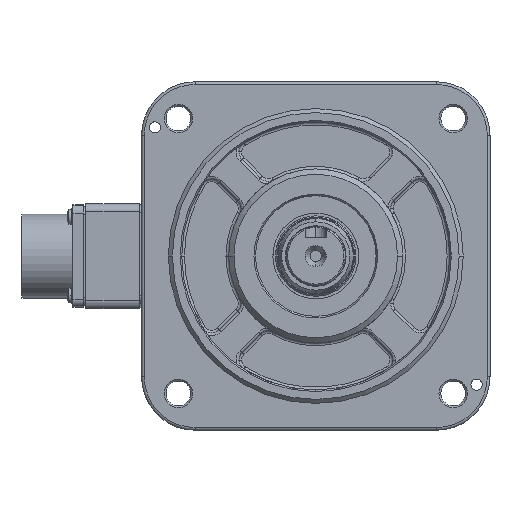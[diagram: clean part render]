
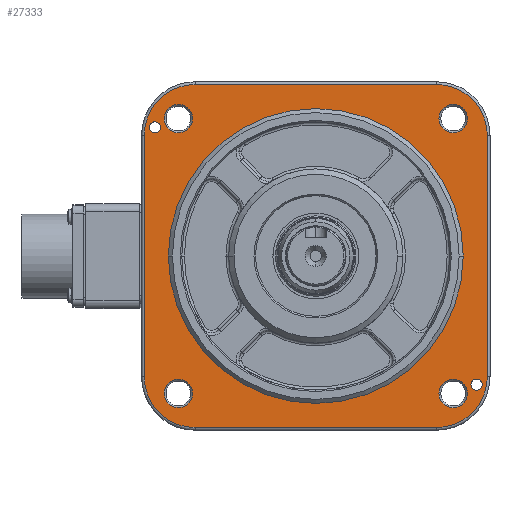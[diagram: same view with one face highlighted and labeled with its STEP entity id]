
A CAD part, left-side view. The second image highlights one B-rep face of the part: STEP entity #27333.
In plain terms, the highlighted planar face has unit normal (-1, 0, 0).
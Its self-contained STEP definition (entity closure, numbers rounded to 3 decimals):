
#22669=CARTESIAN_POINT('',(-121.05,155.539,
-10.843));
#22670=DIRECTION('',(-1.,0.,0.));
#22671=DIRECTION('',(0.,1.,0.));
#22672=AXIS2_PLACEMENT_3D('',#22669,#22670,#22671);
#22674=CARTESIAN_POINT('',(-121.058,155.539,
79.157));
#22675=DIRECTION('',(-1.,0.,0.));
#22676=DIRECTION('',(0.,0.,1.));
#22677=AXIS2_PLACEMENT_3D('',#22674,#22675,#22676);
#22679=CARTESIAN_POINT('',(-121.058,65.539,
79.157));
#22680=DIRECTION('',(-1.,0.,0.));
#22681=DIRECTION('',(0.,-1.,0.));
#22682=AXIS2_PLACEMENT_3D('',#22679,#22680,#22681);
#22684=CARTESIAN_POINT('',(-121.05,65.539,
-10.843));
#22685=DIRECTION('',(-1.,0.,0.));
#22686=DIRECTION('',(0.,0.,-1.));
#22687=AXIS2_PLACEMENT_3D('',#22684,#22685,#22686);
#22689=CARTESIAN_POINT('',(-121.058,170.539,
82.157));
#22690=DIRECTION('',(1.,0.,0.));
#22691=DIRECTION('',(0.,-1.,0.));
#22692=AXIS2_PLACEMENT_3D('',#22689,#22690,#22691);
#22694=CARTESIAN_POINT('',(-121.058,170.539,
82.157));
#22695=DIRECTION('',(1.,0.,0.));
#22696=DIRECTION('',(0.,1.,0.));
#22697=AXIS2_PLACEMENT_3D('',#22694,#22695,#22696);
#22699=CARTESIAN_POINT('',(-121.05,50.539,
-13.843));
#22700=DIRECTION('',(1.,0.,0.));
#22701=DIRECTION('',(0.,-1.,0.));
#22702=AXIS2_PLACEMENT_3D('',#22699,#22700,#22701);
#22704=CARTESIAN_POINT('',(-121.05,50.539,
-13.843));
#22705=DIRECTION('',(1.,0.,0.));
#22706=DIRECTION('',(0.,1.,0.));
#22707=AXIS2_PLACEMENT_3D('',#22704,#22705,#22706);
#22709=CARTESIAN_POINT('',(-121.054,110.539,
34.157));
#22710=DIRECTION('',(1.,0.,0.));
#22711=DIRECTION('',(0.,1.,0.));
#22712=AXIS2_PLACEMENT_3D('',#22709,#22710,#22711);
#22714=CARTESIAN_POINT('',(-121.054,110.539,
34.157));
#22715=DIRECTION('',(1.,0.,0.));
#22716=DIRECTION('',(0.,-1.,0.));
#22717=AXIS2_PLACEMENT_3D('',#22714,#22715,#22716);
#22719=CARTESIAN_POINT('',(-121.05,59.273,
-17.109));
#22720=DIRECTION('',(1.,0.,0.));
#22721=DIRECTION('',(0.,1.,0.));
#22722=AXIS2_PLACEMENT_3D('',#22719,#22720,#22721);
#22724=CARTESIAN_POINT('',(-121.05,59.273,
-17.109));
#22725=DIRECTION('',(1.,0.,0.));
#22726=DIRECTION('',(0.,-1.,0.));
#22727=AXIS2_PLACEMENT_3D('',#22724,#22725,#22726);
#22729=CARTESIAN_POINT('',(-121.05,161.804,
-17.109));
#22730=DIRECTION('',(1.,0.,0.));
#22731=DIRECTION('',(0.,1.,0.));
#22732=AXIS2_PLACEMENT_3D('',#22729,#22730,#22731);
#22734=CARTESIAN_POINT('',(-121.05,161.804,
-17.109));
#22735=DIRECTION('',(1.,0.,0.));
#22736=DIRECTION('',(0.,-1.,0.));
#22737=AXIS2_PLACEMENT_3D('',#22734,#22735,#22736);
#22739=CARTESIAN_POINT('',(-121.059,161.804,
85.422));
#22740=DIRECTION('',(1.,0.,0.));
#22741=DIRECTION('',(0.,1.,0.));
#22742=AXIS2_PLACEMENT_3D('',#22739,#22740,#22741);
#22744=CARTESIAN_POINT('',(-121.059,161.804,
85.422));
#22745=DIRECTION('',(1.,0.,0.));
#22746=DIRECTION('',(0.,-1.,0.));
#22747=AXIS2_PLACEMENT_3D('',#22744,#22745,#22746);
#22749=CARTESIAN_POINT('',(-121.059,59.273,
85.422));
#22750=DIRECTION('',(1.,0.,0.));
#22751=DIRECTION('',(0.,1.,0.));
#22752=AXIS2_PLACEMENT_3D('',#22749,#22750,#22751);
#22754=CARTESIAN_POINT('',(-121.059,59.273,
85.422));
#22755=DIRECTION('',(1.,0.,0.));
#22756=DIRECTION('',(0.,-1.,0.));
#22757=AXIS2_PLACEMENT_3D('',#22754,#22755,#22756);
#22759=DIRECTION('',(0.,1.,0.));
#22760=VECTOR('',#22759,90.);
#22761=CARTESIAN_POINT('',(-121.049,65.539,
-29.843));
#22762=LINE('',#22761,#22760);
#22782=DIRECTION('',(0.,0.,1.));
#22783=VECTOR('',#22782,90.);
#22784=CARTESIAN_POINT('',(-121.05,174.539,
-10.843));
#22785=LINE('',#22784,#22783);
#24880=DIRECTION('',(0.,-1.,0.));
#24881=VECTOR('',#24880,90.);
#24882=CARTESIAN_POINT('',(-121.06,155.539,
98.157));
#24883=LINE('',#24882,#24881);
#24903=DIRECTION('',(0.,0.,-1.));
#24904=VECTOR('',#24903,90.);
#24905=CARTESIAN_POINT('',(-121.058,46.539,
79.157));
#24906=LINE('',#24905,#24904);
#26412=CARTESIAN_POINT('',(-121.06,65.539,
98.157));
#26414=VERTEX_POINT('',#26412);
#26449=CARTESIAN_POINT('',(-121.059,156.504,
85.422));
#26451=VERTEX_POINT('',#26449);
#26519=CARTESIAN_POINT('',(-121.054,165.539,
34.157));
#26520=CARTESIAN_POINT('',(-121.054,55.539,
34.157));
#26521=VERTEX_POINT('',#26519);
#26522=VERTEX_POINT('',#26520);
#26523=CARTESIAN_POINT('',(-121.06,155.539,
98.157));
#26525=VERTEX_POINT('',#26523);
#26669=CARTESIAN_POINT('',(-121.058,172.639,
82.157));
#26670=VERTEX_POINT('',#26669);
#26731=CARTESIAN_POINT('',(-121.059,53.973,
85.422));
#26732=VERTEX_POINT('',#26731);
#26741=CARTESIAN_POINT('',(-121.05,167.104,
-17.109));
#26743=VERTEX_POINT('',#26741);
#26759=CARTESIAN_POINT('',(-121.05,64.573,
-17.109));
#26760=CARTESIAN_POINT('',(-121.05,53.973,
-17.109));
#26761=VERTEX_POINT('',#26759);
#26762=VERTEX_POINT('',#26760);
#26791=CARTESIAN_POINT('',(-121.05,52.639,
-13.843));
#26792=VERTEX_POINT('',#26791);
#26817=CARTESIAN_POINT('',(-121.05,174.539,
-10.843));
#26818=CARTESIAN_POINT('',(-121.058,174.539,
79.157));
#26819=VERTEX_POINT('',#26817);
#26820=VERTEX_POINT('',#26818);
#26821=CARTESIAN_POINT('',(-121.059,167.104,
85.422));
#26822=VERTEX_POINT('',#26821);
#26833=CARTESIAN_POINT('',(-121.05,156.504,
-17.109));
#26834=VERTEX_POINT('',#26833);
#26851=CARTESIAN_POINT('',(-121.049,65.539,
-29.843));
#26852=CARTESIAN_POINT('',(-121.05,46.539,
-10.843));
#26853=VERTEX_POINT('',#26851);
#26854=VERTEX_POINT('',#26852);
#26963=CARTESIAN_POINT('',(-121.058,46.539,
79.157));
#26964=VERTEX_POINT('',#26963);
#26997=CARTESIAN_POINT('',(-121.05,48.439,
-13.843));
#26998=VERTEX_POINT('',#26997);
#27029=CARTESIAN_POINT('',(-121.049,155.539,
-29.843));
#27030=VERTEX_POINT('',#27029);
#27033=CARTESIAN_POINT('',(-121.058,168.439,
82.157));
#27034=VERTEX_POINT('',#27033);
#27103=CARTESIAN_POINT('',(-121.059,64.573,
85.422));
#27104=VERTEX_POINT('',#27103);
#27270=CARTESIAN_POINT('',(-121.054,110.539,
34.157));
#27271=DIRECTION('',(-1.,0.,0.));
#27272=DIRECTION('',(0.,-1.,0.));
#27273=AXIS2_PLACEMENT_3D('',#27270,#27271,#27272);
#27274=PLANE('',#27273);
#27276=ORIENTED_EDGE('',*,*,#27275,.T.);
#27278=ORIENTED_EDGE('',*,*,#27277,.F.);
#27280=ORIENTED_EDGE('',*,*,#27279,.T.);
#27282=ORIENTED_EDGE('',*,*,#27281,.F.);
#27284=ORIENTED_EDGE('',*,*,#27283,.T.);
#27286=ORIENTED_EDGE('',*,*,#27285,.F.);
#27288=ORIENTED_EDGE('',*,*,#27287,.T.);
#27290=ORIENTED_EDGE('',*,*,#27289,.F.);
#27291=EDGE_LOOP('',(#27276,#27278,#27280,#27282,#27284,#27286,#27288,#27290));
#27292=FACE_OUTER_BOUND('',#27291,.F.);
#27294=ORIENTED_EDGE('',*,*,#27293,.F.);
#27296=ORIENTED_EDGE('',*,*,#27295,.F.);
#27297=EDGE_LOOP('',(#27294,#27296));
#27298=FACE_BOUND('',#27297,.F.);
#27300=ORIENTED_EDGE('',*,*,#27299,.F.);
#27302=ORIENTED_EDGE('',*,*,#27301,.F.);
#27303=EDGE_LOOP('',(#27300,#27302));
#27304=FACE_BOUND('',#27303,.F.);
#27305=ORIENTED_EDGE('',*,*,#27261,.F.);
#27306=ORIENTED_EDGE('',*,*,#27251,.F.);
#27307=EDGE_LOOP('',(#27305,#27306));
#27308=FACE_BOUND('',#27307,.F.);
#27310=ORIENTED_EDGE('',*,*,#27309,.F.);
#27312=ORIENTED_EDGE('',*,*,#27311,.F.);
#27313=EDGE_LOOP('',(#27310,#27312));
#27314=FACE_BOUND('',#27313,.F.);
#27316=ORIENTED_EDGE('',*,*,#27315,.F.);
#27318=ORIENTED_EDGE('',*,*,#27317,.F.);
#27319=EDGE_LOOP('',(#27316,#27318));
#27320=FACE_BOUND('',#27319,.F.);
#27322=ORIENTED_EDGE('',*,*,#27321,.F.);
#27324=ORIENTED_EDGE('',*,*,#27323,.F.);
#27325=EDGE_LOOP('',(#27322,#27324));
#27326=FACE_BOUND('',#27325,.F.);
#27328=ORIENTED_EDGE('',*,*,#27327,.F.);
#27330=ORIENTED_EDGE('',*,*,#27329,.F.);
#27331=EDGE_LOOP('',(#27328,#27330));
#27332=FACE_BOUND('',#27331,.F.);
#27333=ADVANCED_FACE('',(#27292,#27298,#27304,#27308,#27314,#27320,#27326,
#27332),#27274,.T.);
#22673=CIRCLE('',#22672,19.);
#22678=CIRCLE('',#22677,19.);
#22683=CIRCLE('',#22682,19.);
#22688=CIRCLE('',#22687,19.);
#22693=CIRCLE('',#22692,2.1);
#22698=CIRCLE('',#22697,2.1);
#22703=CIRCLE('',#22702,2.1);
#22708=CIRCLE('',#22707,2.1);
#22713=CIRCLE('',#22712,55.);
#22718=CIRCLE('',#22717,55.);
#22723=CIRCLE('',#22722,5.3);
#22728=CIRCLE('',#22727,5.3);
#22733=CIRCLE('',#22732,5.3);
#22738=CIRCLE('',#22737,5.3);
#22743=CIRCLE('',#22742,5.3);
#22748=CIRCLE('',#22747,5.3);
#22753=CIRCLE('',#22752,5.3);
#22758=CIRCLE('',#22757,5.3);
#27251=EDGE_CURVE('',#26522,#26521,#22718,.T.);
#27261=EDGE_CURVE('',#26521,#26522,#22713,.T.);
#27275=EDGE_CURVE('',#26853,#27030,#22762,.T.);
#27277=EDGE_CURVE('',#26819,#27030,#22673,.T.);
#27279=EDGE_CURVE('',#26819,#26820,#22785,.T.);
#27281=EDGE_CURVE('',#26525,#26820,#22678,.T.);
#27283=EDGE_CURVE('',#26525,#26414,#24883,.T.);
#27285=EDGE_CURVE('',#26964,#26414,#22683,.T.);
#27287=EDGE_CURVE('',#26964,#26854,#24906,.T.);
#27289=EDGE_CURVE('',#26853,#26854,#22688,.T.);
#27293=EDGE_CURVE('',#27034,#26670,#22693,.T.);
#27295=EDGE_CURVE('',#26670,#27034,#22698,.T.);
#27299=EDGE_CURVE('',#26998,#26792,#22703,.T.);
#27301=EDGE_CURVE('',#26792,#26998,#22708,.T.);
#27309=EDGE_CURVE('',#26761,#26762,#22723,.T.);
#27311=EDGE_CURVE('',#26762,#26761,#22728,.T.);
#27315=EDGE_CURVE('',#26743,#26834,#22733,.T.);
#27317=EDGE_CURVE('',#26834,#26743,#22738,.T.);
#27321=EDGE_CURVE('',#26822,#26451,#22743,.T.);
#27323=EDGE_CURVE('',#26451,#26822,#22748,.T.);
#27327=EDGE_CURVE('',#27104,#26732,#22753,.T.);
#27329=EDGE_CURVE('',#26732,#27104,#22758,.T.);
